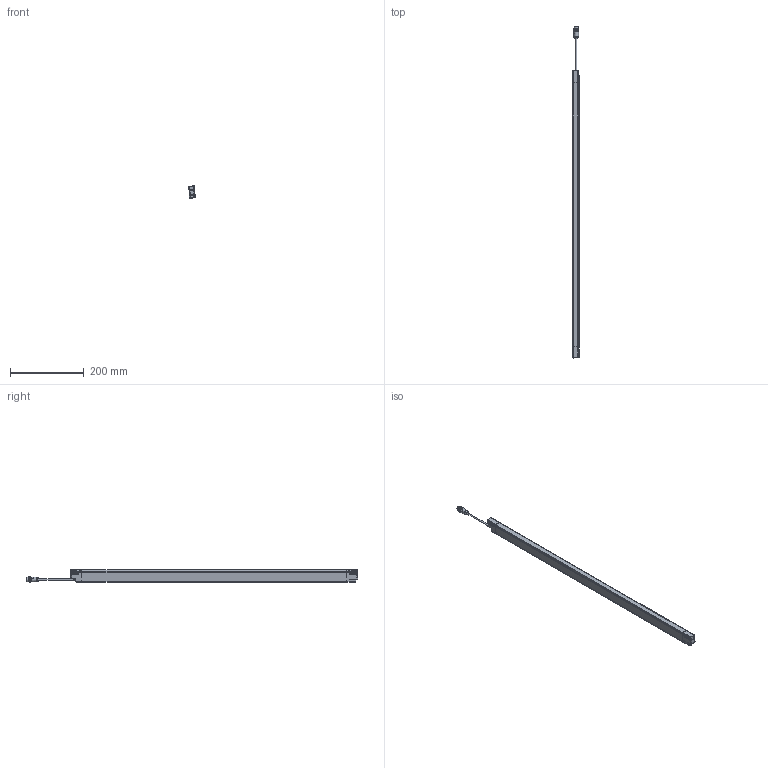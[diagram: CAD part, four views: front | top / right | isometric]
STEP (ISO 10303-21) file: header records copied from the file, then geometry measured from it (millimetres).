
FILE_DESCRIPTION(/* description */ (''),/* implementation_level */ '2;1');
FILE_NAME(/* name */ 'DSD-0641.stp',/* time_stamp */ '2015-02-23T17:37:25+01:00',/* author */ (''),/* organization */ (''),/* preprocessor_version */ 'ST-DEVELOPER v11',/* originating_system */ 'SIEMENS PLM Software NX 7.5',/* authorisation */ '');
FILE_SCHEMA (('AUTOMOTIVE_DESIGN { 1 0 10303 214 1 1 1 1 }'));
Length unit declared in the file: millimetre
Products named in the file (1): AP008123_00
Bounding box: 17.36 x 900.24 x 33.46 mm (x, y, z)
Surface area: 96069.8 mm2 (no closed solid volume)
Topology: 0 solids, 45 shells, 1069 faces, 3716 edges, 2565 vertices
Faces by surface type: cylinder 387, plane 329, bspline 145, torus 111, sphere 63, cone 34
Full cylindrical faces by diameter (mm): 1 x5, 1.2 x2, 2.6 x6, 4 x1, 8.3 x1, 9.4 x1, 10.4 x1, 12 x1, 13 x1, 13.5 x1, 14.5 x2
Entity records: 45786 total; most frequent: CARTESIAN_POINT 14568, DIRECTION 6674, ORIENTED_EDGE 5772, EDGE_CURVE 3605, VERTEX_POINT 2537, AXIS2_PLACEMENT_3D 2498, LINE 1678, VECTOR 1678
